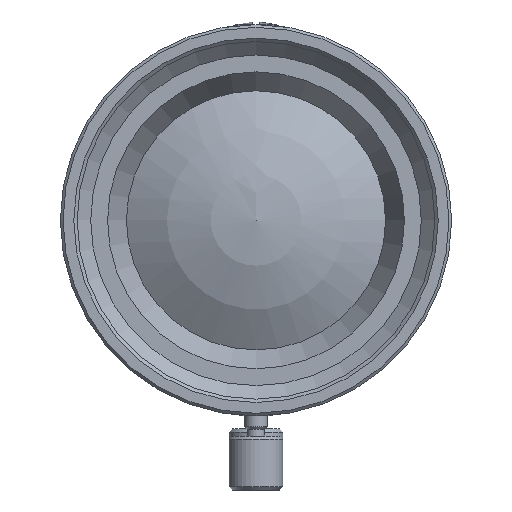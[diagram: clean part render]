
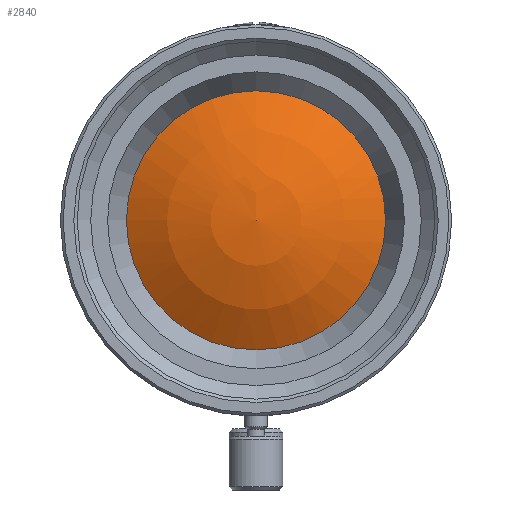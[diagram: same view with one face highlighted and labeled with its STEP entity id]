
A CAD part, left-side view. The second image highlights one B-rep face of the part: STEP entity #2840.
In plain terms, the highlighted spherical face has radius 17.5 mm.
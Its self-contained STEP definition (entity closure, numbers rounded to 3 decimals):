
#129=SPHERICAL_SURFACE('',#3068,17.5);
#192=CIRCLE('',#3067,9.6);
#429=ORIENTED_EDGE('',*,*,#712,.T.);
#712=EDGE_CURVE('',#882,#882,#192,.T.);
#882=VERTEX_POINT('',#4119);
#1107=EDGE_LOOP('',(#429));
#1415=FACE_BOUND('',#1107,.T.);
#2840=ADVANCED_FACE('',(#1415),#129,.T.);
#3067=AXIS2_PLACEMENT_3D('',#4118,#3496,#3497);
#3068=AXIS2_PLACEMENT_3D('',#4120,#3498,#3499);
#3496=DIRECTION('',(-1.,0.,0.));
#3497=DIRECTION('',(0.,0.,1.));
#3498=DIRECTION('',(-1.,0.,0.));
#3499=DIRECTION('',(0.,0.,1.));
#4118=CARTESIAN_POINT('',(-52.969,0.,0.));
#4119=CARTESIAN_POINT('',(-52.969,0.,9.6));
#4120=CARTESIAN_POINT('',(-38.337,0.,0.));
